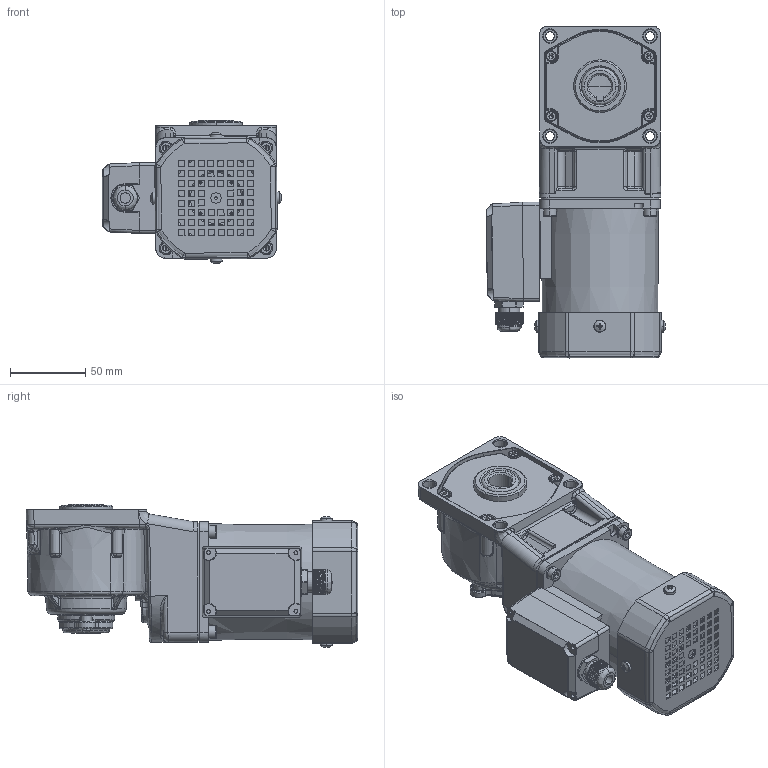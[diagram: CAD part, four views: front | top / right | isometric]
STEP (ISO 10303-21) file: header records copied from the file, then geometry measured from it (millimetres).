
FILE_DESCRIPTION (( 'STEP AP203' ), '1' );
FILE_NAME ('4IK40GN-CFT(4GN3RC-180RC)ÐÂ.STEP', '2022-02-25T06:18:35', ( 'PC' ), ( 'Microsoft' ), 'SwSTEP 2.0', 'SolidWorks 2014', '' );
FILE_SCHEMA (( 'CONFIG_CONTROL_DESIGN' ));
Length unit declared in the file: millimetre
Products named in the file (13): M4_1; cross recessed pan head screws gb_GB_CROSS_SCREWS_TYPE1 M3X6-6  H type-N; TSJXH^70TSJXHG(2)_80JXH_1; 80眻褒眊裔; 4IK40GN-CFT(4GN3RC-180RC)陔; 80諾陑怀堤粣; hexagon socket head cap screws gb_GB_FASTENER_SCREWS_HSHCS M4X12-N; M5X20-S^4ik25gn-c-4gn3-180rc_asm(2)_80RC; 80FZ; 80TSJXHJK_2; M14SJQ^70TSJXHG(2)_80JXH_1; zd-4gn1000rc-504-001-20211209（实心外形）; 80綴傷裔
Assembly tree (22 placements, depth 2):
  4IK40GN-CFT(4GN3RC-180RC)陔
    80綴傷裔
    zd-4gn1000rc-504-001-20211209（实心外形）
    cross recessed pan head screws gb_GB_CROSS_SCREWS_TYPE1 M3X6-6  H type-N  x2
    80眻褒眊裔
    80諾陑怀堤粣
    hexagon socket head cap screws gb_GB_FASTENER_SCREWS_HSHCS M4X12-N  x4
    M5X20-S^4ik25gn-c-4gn3-180rc_asm(2)_80RC  x4
    80FZ
    80TSJXHJK_2
    M14SJQ^70TSJXHG(2)_80JXH_1
    M4_1  x4
    TSJXH^70TSJXHG(2)_80JXH_1
Bounding box: 118.97 x 220.47 x 95.03 mm (x, y, z)
Volume: 738727.2 mm3; surface area: 198324.9 mm2
Topology: 22 solids, 25 shells, 3468 faces, 8096 edges, 4666 vertices
Faces by surface type: cone 1213, cylinder 1023, plane 714, bspline 444, torus 54, sphere 20
Entity records: 96658 total; most frequent: CARTESIAN_POINT 48652, ORIENTED_EDGE 10354, DIRECTION 8615, EDGE_CURVE 5177, AXIS2_PLACEMENT_3D 3168, VERTEX_POINT 3143, EDGE_LOOP 2366, VECTOR 2279
